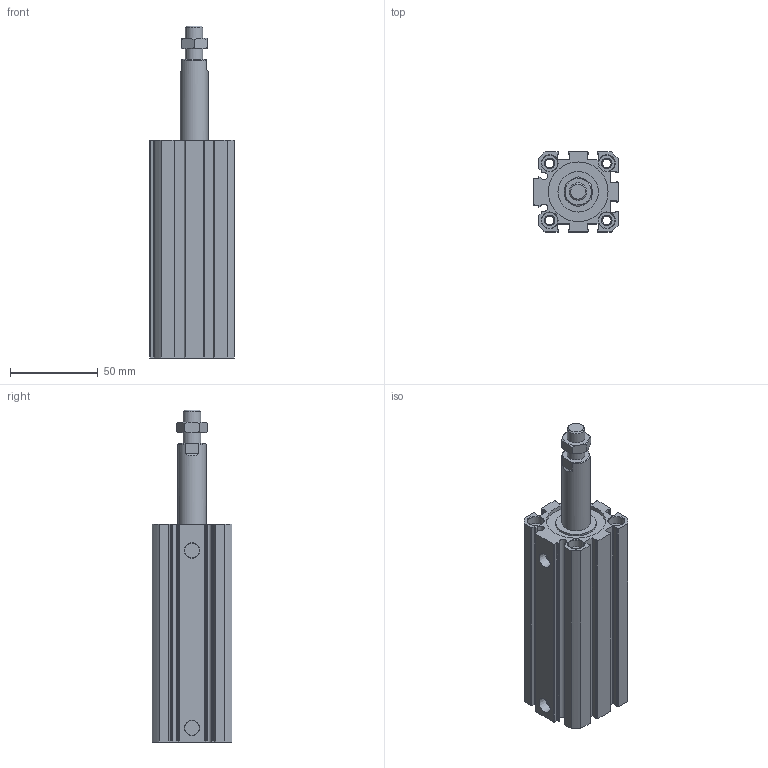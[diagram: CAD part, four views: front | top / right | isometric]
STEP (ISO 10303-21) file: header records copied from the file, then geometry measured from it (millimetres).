
FILE_DESCRIPTION( ( 'STEP AP214' ), '1' );
FILE_NAME( 'C:/Users/EMC02301/Desktop/RU0638 SF外牙 图纸/SF32X80-S-M.stp', '2026-07-24T09:30:41', ( 'License CC BY-ND 4.0' ), ( 'CADENAS' ), ' ', 'PARTsolutions', ' ' );
FILE_SCHEMA( ( 'AUTOMOTIVE_DESIGN { 1 0 10303 214 1 1 1 1 }' ) );
Length unit declared in the file: millimetre
Products named in the file (3): SF32X80-S-M()(039); _SF32X80()(_body) ; _SF32X80-M(rod-0)
Assembly tree (2 placements, depth 2):
  SF32X80-S-M()(039)
    _SF32X80()(_body) 
    _SF32X80-M(rod-0)
Bounding box: 48 x 45.5 x 189 mm (x, y, z)
Volume: 172814.7 mm3; surface area: 65099.2 mm2
Topology: 2 solids, 2 shells, 219 faces, 562 edges, 366 vertices
Faces by surface type: plane 99, cylinder 87, cone 33
Full cylindrical faces by diameter (mm): 4.917 x4, 9 x8, 10 x2, 16 x2, 23 x1, 32 x3, 34 x1
Entity records: 8358 total; most frequent: CARTESIAN_POINT 1250, DIRECTION 1146, ORIENTED_EDGE 1036, EDGE_CURVE 518, AXIS2_PLACEMENT_3D 434, VERTEX_POINT 362, EDGE_LOOP 286, LINE 278
